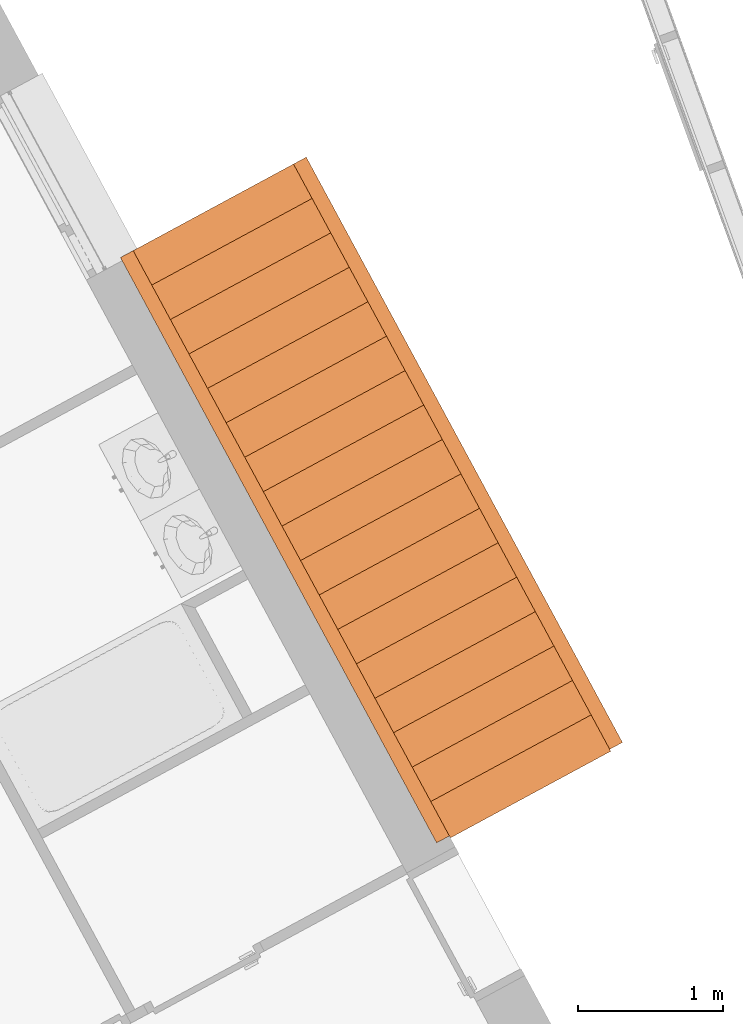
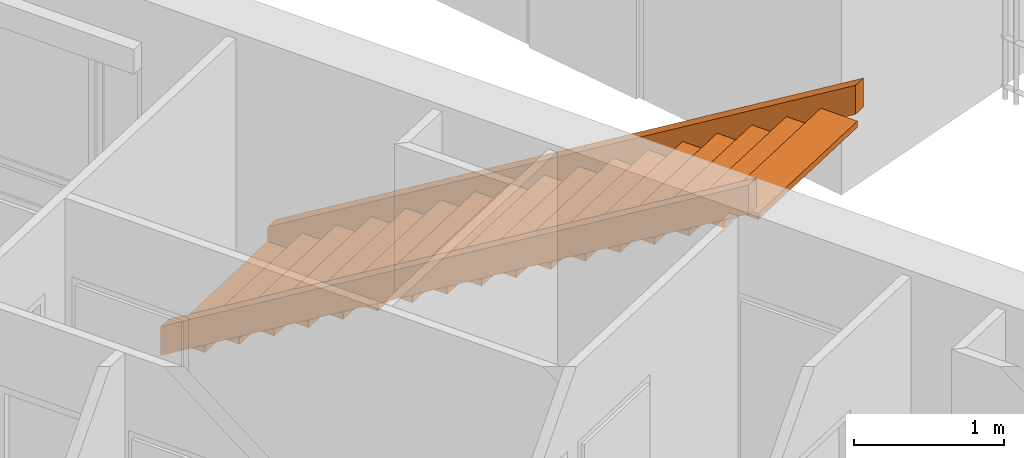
# One storey, part 190 of 195: 19 proxies, 1 element without a shape of its own.
"""IFC2X3 building model written with IfcOpenShell, lengths in metres."""

from ifc_helpers import new_model, entity, si_unit, converted_unit, derived_unit, money_unit, direction, frame, origin_with_axes, place, context, subcontext, project, spatial, faceted_brep, material, type_object, element, aggregate, save


model = new_model("IFC2X3")

# Units and contexts
model_context = context("Model", 3, precision=1e-05, world=origin_with_axes(), true_north=direction((0.0, 1.0)))
body_context = subcontext(model_context, "Body", "Model", "MODEL_VIEW")
ifc_project = project(units=[si_unit("LENGTHUNIT", "METRE"), si_unit("AREAUNIT", "SQUARE_METRE"), si_unit("VOLUMEUNIT", "CUBIC_METRE"), converted_unit("PLANEANGLEUNIT", "DEGREE", entity("IfcPlaneAngleMeasure", 0.0174532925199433), si_unit("PLANEANGLEUNIT", "RADIAN"), dimensions=[0, 0, 0, 0, 0, 0, 0]), money_unit("CHF"), converted_unit("TIMEUNIT", "Year", entity("IfcTimeMeasure", 31557600.0), si_unit("TIMEUNIT", "SECOND"), dimensions=[0, 0, 1, 0, 0, 0, 0]), si_unit("MASSUNIT", "GRAM", prefix="KILO"), si_unit("THERMODYNAMICTEMPERATUREUNIT", "DEGREE_CELSIUS"), si_unit("LUMINOUSINTENSITYUNIT", "LUMEN"), si_unit("ENERGYUNIT", "JOULE", prefix="MEGA"), derived_unit("THERMALCONDUCTANCEUNIT", [(si_unit("POWERUNIT", "WATT"), 1), (si_unit("LENGTHUNIT", "METRE"), -1), (si_unit("THERMODYNAMICTEMPERATUREUNIT", "KELVIN"), -1)]), derived_unit("SPECIFICHEATCAPACITYUNIT", [(si_unit("ENERGYUNIT", "JOULE"), 1), (si_unit("MASSUNIT", "GRAM", prefix="KILO"), -1), (si_unit("THERMODYNAMICTEMPERATUREUNIT", "KELVIN"), -1)]), derived_unit("MASSDENSITYUNIT", [(si_unit("MASSUNIT", "GRAM", prefix="KILO"), 1), (si_unit("VOLUMEUNIT", "CUBIC_METRE"), -1)])], contexts=[model_context])

# Site, building, storey
site_placement = place(None, origin_with_axes())
site = spatial("IfcSite", under=ifc_project, at=site_placement, Name="Site", CompositionType="ELEMENT")
building_placement = place(site_placement, origin_with_axes())
building = spatial("IfcBuilding", under=site, at=building_placement, Name="Bâtiment", CompositionType="ELEMENT")
storey_placement = place(building_placement, origin_with_axes())
storey = spatial("IfcBuildingStorey", under=building, at=storey_placement, Name="rdc", CompositionType="ELEMENT", Elevation=0.0)

# Stair, proxies
stair_placement = place(storey_placement, frame((9563.621059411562, -1025.685875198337, 57.33248236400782), z_axis=(0.0, 0.0, 1.0), x_axis=(-0.2274627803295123, 0.9737867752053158, 0.0)))
stair = element("IfcStair", 1, at=stair_placement, inside=storey, Name="ESC-028", ShapeType="NOTDEFINED")
ifc_material_1 = material(Name="Isolant styromousse 288701002")
building_element_proxy_type = type_object("IfcBuildingElementProxyType", Name="IfcBuildingElementProxy", PredefinedType="NOTDEFINED")
proxy_1_placement = place(stair_placement, origin_with_axes())
proxy_1 = element("IfcBuildingElementProxy", 2, at=proxy_1_placement, type_object=building_element_proxy_type, material=ifc_material_1, Name="SS - 039", context=body_context, shape_type="Brep", body=[
    faceted_brep([(-4.428745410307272, -1.205949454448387, 2.882482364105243), (-4.428745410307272, -1.205949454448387, 3.117517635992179), (0.0, 0.0, 0.2841843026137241), (0.0, 0.0, 0.04914903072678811), (-4.402472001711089, -1.302436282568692, 3.117517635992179), (-4.402472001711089, -1.302436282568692, 2.882482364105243), (0.02627340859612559, -0.09648682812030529, 0.2841843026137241), (0.02627340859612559, -0.09648682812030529, 0.04914903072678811)], [[[0, 1, 2, 3]], [[4, 1, 0, 5]], [[1, 4, 6, 2]], [[2, 6, 7, 3]], [[5, 0, 3, 7]], [[4, 5, 7, 6]]]),
])
proxy_2_placement = place(stair_placement, origin_with_axes())
proxy_2 = element("IfcBuildingElementProxy", 3, at=proxy_2_placement, type_object=building_element_proxy_type, material=ifc_material_1, Name="SS - 039", context=body_context, shape_type="Brep", body=[
    faceted_brep([(-4.785391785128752, 0.103803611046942, 2.882482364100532), (-4.785391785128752, 0.103803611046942, 3.117517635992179), (-0.3566463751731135, 1.30975306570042, 0.2841843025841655), (-0.3566463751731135, 1.30975306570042, 0.04914903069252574), (-4.759118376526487, 0.007316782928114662, 3.117517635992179), (-4.759118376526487, 0.007316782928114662, 2.882482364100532), (-0.3303729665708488, 1.213266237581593, 0.2841843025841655), (-0.3303729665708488, 1.213266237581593, 0.04914903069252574)], [[[0, 1, 2, 3]], [[4, 1, 0, 5]], [[1, 4, 6, 2]], [[2, 6, 7, 3]], [[5, 0, 3, 7]], [[4, 5, 7, 6]]]),
])
ifc_material_2 = material(Name="Lame d'air 275581351")
proxy_3_placement = place(stair_placement, frame((-0.1274260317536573, 0.4679611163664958, 0.1666666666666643), z_axis=(0.0, 0.0, 1.0), x_axis=(-0.2627340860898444, 0.9648682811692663, 0.0)))
proxy_3 = element("IfcBuildingElementProxy", 4, at=proxy_3_placement, type_object=building_element_proxy_type, material=ifc_material_2, Name="MARCHE-537", context=body_context, shape_type="Brep", body=[
    faceted_brep([(-0.4849999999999, 0.0, -0.04999999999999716), (0.7724423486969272, 2.852402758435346e-10, -0.04999999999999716), (0.7724423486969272, 2.852402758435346e-10, 0.0), (-0.4849999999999, 0.0, 0.0), (-0.4849999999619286, 0.2849999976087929, -0.04999999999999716), (0.7724423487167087, 0.2849999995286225, -0.04999999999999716), (0.7724423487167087, 0.2849999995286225, 0.0), (-0.4849999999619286, 0.2849999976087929, 0.0)], [[[0, 1, 2, 3]], [[0, 4, 5, 1]], [[1, 5, 6, 2]], [[3, 2, 6, 7]], [[4, 0, 3, 7]], [[5, 4, 7, 6]]]),
])
proxy_4_placement = place(stair_placement, frame((-0.3879404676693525, 0.3970229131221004, 0.3333333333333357), z_axis=(0.0, 0.0, 1.0), x_axis=(-0.2627340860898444, 0.9648682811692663, 0.0)))
proxy_4 = element("IfcBuildingElementProxy", 5, at=proxy_4_placement, type_object=building_element_proxy_type, material=ifc_material_2, Name="MARCHE-538", context=body_context, shape_type="Brep", body=[
    faceted_brep([(-0.4850000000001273, 0.0, -0.04999999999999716), (0.7724423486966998, 2.853539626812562e-10, -0.04999999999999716), (0.7724423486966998, 2.853539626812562e-10, 0.0), (-0.4850000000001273, 0.0, 0.0), (-0.4849999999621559, 0.2849999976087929, -0.04999999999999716), (0.772442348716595, 0.2849999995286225, -0.04999999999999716), (0.772442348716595, 0.2849999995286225, 0.0), (-0.4849999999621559, 0.2849999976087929, 0.0)], [[[0, 1, 2, 3]], [[0, 4, 5, 1]], [[1, 5, 6, 2]], [[3, 2, 6, 7]], [[4, 0, 3, 7]], [[5, 4, 7, 6]]]),
])
proxy_5_placement = place(stair_placement, frame((-0.6484549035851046, 0.3260847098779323, 0.5), z_axis=(0.0, 0.0, 1.0), x_axis=(-0.2627340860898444, 0.9648682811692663, 0.0)))
proxy_5 = element("IfcBuildingElementProxy", 6, at=proxy_5_placement, type_object=building_element_proxy_type, material=ifc_material_2, Name="MARCHE-539", context=body_context, shape_type="Brep", body=[
    faceted_brep([(-0.4850000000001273, 0.0, -0.04999999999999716), (0.7724423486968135, 2.853539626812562e-10, -0.04999999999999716), (0.7724423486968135, 2.853539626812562e-10, 0.0), (-0.4850000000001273, 0.0, 0.0), (-0.4849999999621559, 0.2849999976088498, -0.04999999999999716), (0.772442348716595, 0.2849999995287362, -0.04999999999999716), (0.772442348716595, 0.2849999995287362, 0.0), (-0.4849999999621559, 0.2849999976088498, 0.0)], [[[0, 1, 2, 3]], [[0, 4, 5, 1]], [[1, 5, 6, 2]], [[3, 2, 6, 7]], [[4, 0, 3, 7]], [[5, 4, 7, 6]]]),
])
proxy_6_placement = place(stair_placement, frame((-1.169483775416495, 0.1842083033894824, 0.8333333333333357), z_axis=(0.0, 0.0, 1.0), x_axis=(-0.2627340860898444, 0.9648682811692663, 0.0)))
proxy_6 = element("IfcBuildingElementProxy", 7, at=proxy_6_placement, type_object=building_element_proxy_type, material=ifc_material_2, Name="MARCHE-541", context=body_context, shape_type="Brep", body=[
    faceted_brep([(-0.4850000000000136, 0.0, -0.04999999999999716), (0.7724423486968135, 2.853539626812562e-10, -0.04999999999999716), (0.7724423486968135, 2.853539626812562e-10, 0.0), (-0.4850000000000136, 0.0, 0.0), (-0.4849999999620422, 0.2849999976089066, -0.04999999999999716), (0.7724423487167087, 0.2849999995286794, -0.04999999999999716), (0.7724423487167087, 0.2849999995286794, 0.0), (-0.4849999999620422, 0.2849999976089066, 0.0)], [[[0, 1, 2, 3]], [[0, 4, 5, 1]], [[1, 5, 6, 2]], [[3, 2, 6, 7]], [[4, 0, 3, 7]], [[5, 4, 7, 6]]]),
])
proxy_7_placement = place(stair_placement, frame((-1.42999821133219, 0.1132701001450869, 1.0), z_axis=(0.0, 0.0, 1.0), x_axis=(-0.2627340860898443, 0.9648682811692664, 0.0)))
proxy_7 = element("IfcBuildingElementProxy", 8, at=proxy_7_placement, type_object=building_element_proxy_type, material=ifc_material_2, Name="MARCHE-542", context=body_context, shape_type="Brep", body=[
    faceted_brep([(-0.4850000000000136, 0.0, -0.04999999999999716), (0.7724423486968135, 2.853539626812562e-10, -0.04999999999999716), (0.7724423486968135, 2.853539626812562e-10, 0.0), (-0.4850000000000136, 0.0, 0.0), (-0.4849999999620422, 0.2849999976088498, -0.04999999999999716), (0.7724423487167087, 0.2849999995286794, -0.04999999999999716), (0.7724423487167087, 0.2849999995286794, 0.0), (-0.4849999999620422, 0.2849999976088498, 0.0)], [[[0, 1, 2, 3]], [[0, 4, 5, 1]], [[1, 5, 6, 2]], [[3, 2, 6, 7]], [[4, 0, 3, 7]], [[5, 4, 7, 6]]]),
])
proxy_8_placement = place(stair_placement, frame((-1.690512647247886, 0.04233189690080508, 1.166666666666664), z_axis=(0.0, 0.0, 1.0), x_axis=(-0.2627340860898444, 0.9648682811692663, 0.0)))
proxy_8 = element("IfcBuildingElementProxy", 9, at=proxy_8_placement, type_object=building_element_proxy_type, material=ifc_material_2, Name="MARCHE-543", context=body_context, shape_type="Brep", body=[
    faceted_brep([(-0.4850000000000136, 0.0, -0.04999999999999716), (0.7724423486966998, 2.853539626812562e-10, -0.04999999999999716), (0.7724423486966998, 2.853539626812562e-10, 0.0), (-0.4850000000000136, 0.0, 0.0), (-0.4849999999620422, 0.2849999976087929, -0.04999999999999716), (0.772442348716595, 0.2849999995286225, -0.04999999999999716), (0.772442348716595, 0.2849999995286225, 0.0), (-0.4849999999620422, 0.2849999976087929, 0.0)], [[[0, 1, 2, 3]], [[0, 4, 5, 1]], [[1, 5, 6, 2]], [[3, 2, 6, 7]], [[4, 0, 3, 7]], [[5, 4, 7, 6]]]),
])
proxy_9_placement = place(stair_placement, frame((-0.908969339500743, 0.2551465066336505, 0.6666666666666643), z_axis=(0.0, 0.0, 1.0), x_axis=(-0.2627340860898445, 0.9648682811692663, 0.0)))
proxy_9 = element("IfcBuildingElementProxy", 10, at=proxy_9_placement, type_object=building_element_proxy_type, material=ifc_material_2, Name="MARCHE-540", context=body_context, shape_type="Brep", body=[
    faceted_brep([(-0.4850000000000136, 0.0, -0.04999999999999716), (0.7724423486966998, 2.852971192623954e-10, -0.04999999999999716), (0.7724423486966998, 2.852971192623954e-10, 0.0), (-0.4850000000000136, 0.0, 0.0), (-0.4849999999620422, 0.2849999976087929, -0.04999999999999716), (0.7724423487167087, 0.2849999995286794, -0.04999999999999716), (0.7724423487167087, 0.2849999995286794, 0.0), (-0.4849999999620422, 0.2849999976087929, 0.0)], [[[0, 1, 2, 3]], [[0, 4, 5, 1]], [[1, 5, 6, 2]], [[3, 2, 6, 7]], [[4, 0, 3, 7]], [[5, 4, 7, 6]]]),
])
proxy_10_placement = place(stair_placement, frame((-1.951027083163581, -0.02860630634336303, 1.333333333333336), z_axis=(0.0, 0.0, 1.0), x_axis=(-0.2627340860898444, 0.9648682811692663, 0.0)))
proxy_10 = element("IfcBuildingElementProxy", 11, at=proxy_10_placement, type_object=building_element_proxy_type, material=ifc_material_2, Name="MARCHE-544", context=body_context, shape_type="Brep", body=[
    faceted_brep([(-0.4849999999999, 0.0, -0.04999999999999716), (0.7724423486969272, 2.853539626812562e-10, -0.04999999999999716), (0.7724423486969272, 2.853539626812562e-10, 0.0), (-0.4849999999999, 0.0, 0.0), (-0.4849999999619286, 0.2849999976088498, -0.04999999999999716), (0.7724423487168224, 0.2849999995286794, -0.04999999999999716), (0.7724423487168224, 0.2849999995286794, 0.0), (-0.4849999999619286, 0.2849999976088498, 0.0)], [[[0, 1, 2, 3]], [[0, 4, 5, 1]], [[1, 5, 6, 2]], [[3, 2, 6, 7]], [[4, 0, 3, 7]], [[5, 4, 7, 6]]]),
])
proxy_11_placement = place(stair_placement, frame((-2.211541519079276, -0.09954450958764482, 1.5), z_axis=(0.0, 0.0, 1.0), x_axis=(-0.2627340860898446, 0.9648682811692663, 0.0)))
proxy_11 = element("IfcBuildingElementProxy", 12, at=proxy_11_placement, type_object=building_element_proxy_type, material=ifc_material_2, Name="MARCHE-545", context=body_context, shape_type="Brep", body=[
    faceted_brep([(-0.4850000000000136, 0.0, -0.04999999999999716), (0.7724423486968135, 2.853539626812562e-10, -0.04999999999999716), (0.7724423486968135, 2.853539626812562e-10, 0.0), (-0.4850000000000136, 0.0, 0.0), (-0.4849999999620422, 0.2849999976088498, -0.04999999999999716), (0.7724423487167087, 0.2849999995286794, -0.04999999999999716), (0.7724423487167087, 0.2849999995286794, 0.0), (-0.4849999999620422, 0.2849999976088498, 0.0)], [[[0, 1, 2, 3]], [[0, 4, 5, 1]], [[1, 5, 6, 2]], [[3, 2, 6, 7]], [[4, 0, 3, 7]], [[5, 4, 7, 6]]]),
])
proxy_12_placement = place(stair_placement, frame((-2.472055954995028, -0.1704827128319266, 1.666666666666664), z_axis=(0.0, 0.0, 1.0), x_axis=(-0.2627340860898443, 0.9648682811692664, 0.0)))
proxy_12 = element("IfcBuildingElementProxy", 13, at=proxy_12_placement, type_object=building_element_proxy_type, material=ifc_material_2, Name="MARCHE-546", context=body_context, shape_type="Brep", body=[
    faceted_brep([(-0.4850000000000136, 0.0, -0.04999999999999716), (0.7724423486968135, 2.853539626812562e-10, -0.04999999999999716), (0.7724423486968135, 2.853539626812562e-10, 0.0), (-0.4850000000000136, 0.0, 0.0), (-0.4849999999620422, 0.2849999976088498, -0.04999999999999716), (0.772442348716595, 0.2849999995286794, -0.04999999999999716), (0.772442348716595, 0.2849999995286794, 0.0), (-0.4849999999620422, 0.2849999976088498, 0.0)], [[[0, 1, 2, 3]], [[0, 4, 5, 1]], [[1, 5, 6, 2]], [[3, 2, 6, 7]], [[4, 0, 3, 7]], [[5, 4, 7, 6]]]),
])
proxy_13_placement = place(stair_placement, frame((-2.732570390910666, -0.2414209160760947, 1.833333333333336), z_axis=(0.0, 0.0, 1.0), x_axis=(-0.2627340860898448, 0.9648682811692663, 0.0)))
proxy_13 = element("IfcBuildingElementProxy", 14, at=proxy_13_placement, type_object=building_element_proxy_type, material=ifc_material_2, Name="MARCHE-547", context=body_context, shape_type="Brep", body=[
    faceted_brep([(-0.4850000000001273, 0.0, -0.04999999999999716), (0.7724423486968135, 2.853539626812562e-10, -0.04999999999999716), (0.7724423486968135, 2.853539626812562e-10, 0.0), (-0.4850000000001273, 0.0, 0.0), (-0.4849999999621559, 0.2849999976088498, -0.04999999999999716), (0.772442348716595, 0.2849999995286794, -0.04999999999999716), (0.772442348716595, 0.2849999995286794, 0.0), (-0.4849999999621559, 0.2849999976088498, 0.0)], [[[0, 1, 2, 3]], [[0, 4, 5, 1]], [[1, 5, 6, 2]], [[3, 2, 6, 7]], [[4, 0, 3, 7]], [[5, 4, 7, 6]]]),
])
proxy_14_placement = place(stair_placement, frame((-2.993084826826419, -0.3123591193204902, 2.0), z_axis=(0.0, 0.0, 1.0), x_axis=(-0.2627340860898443, 0.9648682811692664, 0.0)))
proxy_14 = element("IfcBuildingElementProxy", 15, at=proxy_14_placement, type_object=building_element_proxy_type, material=ifc_material_2, Name="MARCHE-548", context=body_context, shape_type="Brep", body=[
    faceted_brep([(-0.4850000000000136, 0.0, -0.04999999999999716), (0.7724423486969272, 2.852971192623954e-10, -0.04999999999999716), (0.7724423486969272, 2.852971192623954e-10, 0.0), (-0.4850000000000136, 0.0, 0.0), (-0.4849999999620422, 0.2849999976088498, -0.04999999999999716), (0.7724423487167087, 0.2849999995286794, -0.04999999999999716), (0.7724423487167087, 0.2849999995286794, 0.0), (-0.4849999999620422, 0.2849999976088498, 0.0)], [[[0, 1, 2, 3]], [[0, 4, 5, 1]], [[1, 5, 6, 2]], [[3, 2, 6, 7]], [[4, 0, 3, 7]], [[5, 4, 7, 6]]]),
])
proxy_15_placement = place(stair_placement, frame((-3.253599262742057, -0.3832973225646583, 2.166666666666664), z_axis=(0.0, 0.0, 1.0), x_axis=(-0.2627340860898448, 0.9648682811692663, 0.0)))
proxy_15 = element("IfcBuildingElementProxy", 16, at=proxy_15_placement, type_object=building_element_proxy_type, material=ifc_material_2, Name="MARCHE-549", context=body_context, shape_type="Brep", body=[
    faceted_brep([(-0.4850000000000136, 0.0, -0.04999999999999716), (0.7724423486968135, 2.853539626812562e-10, -0.04999999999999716), (0.7724423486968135, 2.853539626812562e-10, 0.0), (-0.4850000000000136, 0.0, 0.0), (-0.4849999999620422, 0.2849999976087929, -0.04999999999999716), (0.7724423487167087, 0.2849999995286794, -0.04999999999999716), (0.7724423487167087, 0.2849999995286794, 0.0), (-0.4849999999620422, 0.2849999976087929, 0.0)], [[[0, 1, 2, 3]], [[0, 4, 5, 1]], [[1, 5, 6, 2]], [[3, 2, 6, 7]], [[4, 0, 3, 7]], [[5, 4, 7, 6]]]),
])
proxy_16_placement = place(stair_placement, frame((-3.514113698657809, -0.4542355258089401, 2.333333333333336), z_axis=(0.0, 0.0, 1.0), x_axis=(-0.2627340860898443, 0.9648682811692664, 0.0)))
proxy_16 = element("IfcBuildingElementProxy", 17, at=proxy_16_placement, type_object=building_element_proxy_type, material=ifc_material_2, Name="MARCHE-550", context=body_context, shape_type="Brep", body=[
    faceted_brep([(-0.4850000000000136, 0.0, -0.04999999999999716), (0.7724423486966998, 2.852971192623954e-10, -0.04999999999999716), (0.7724423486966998, 2.852971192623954e-10, 0.0), (-0.4850000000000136, 0.0, 0.0), (-0.4849999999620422, 0.2849999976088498, -0.04999999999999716), (0.7724423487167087, 0.2849999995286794, -0.04999999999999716), (0.7724423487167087, 0.2849999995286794, 0.0), (-0.4849999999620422, 0.2849999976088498, 0.0)], [[[0, 1, 2, 3]], [[0, 4, 5, 1]], [[1, 5, 6, 2]], [[3, 2, 6, 7]], [[4, 0, 3, 7]], [[5, 4, 7, 6]]]),
])
proxy_17_placement = place(stair_placement, frame((-3.774628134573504, -0.5251737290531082, 2.5), z_axis=(0.0, 0.0, 1.0), x_axis=(-0.2627340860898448, 0.9648682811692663, 0.0)))
proxy_17 = element("IfcBuildingElementProxy", 18, at=proxy_17_placement, type_object=building_element_proxy_type, material=ifc_material_2, Name="MARCHE-551", context=body_context, shape_type="Brep", body=[
    faceted_brep([(-0.4850000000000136, 0.0, -0.04999999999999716), (0.7724423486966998, 2.852402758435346e-10, -0.04999999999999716), (0.7724423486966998, 2.852402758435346e-10, 0.0), (-0.4850000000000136, 0.0, 0.0), (-0.4849999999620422, 0.2849999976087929, -0.04999999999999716), (0.772442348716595, 0.2849999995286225, -0.04999999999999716), (0.772442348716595, 0.2849999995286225, 0.0), (-0.4849999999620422, 0.2849999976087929, 0.0)], [[[0, 1, 2, 3]], [[0, 4, 5, 1]], [[1, 5, 6, 2]], [[3, 2, 6, 7]], [[4, 0, 3, 7]], [[5, 4, 7, 6]]]),
])
proxy_18_placement = place(stair_placement, frame((-4.035142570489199, -0.59611193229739, 2.666666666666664), z_axis=(0.0, 0.0, 1.0), x_axis=(-0.2627340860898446, 0.9648682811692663, 0.0)))
proxy_18 = element("IfcBuildingElementProxy", 19, at=proxy_18_placement, type_object=building_element_proxy_type, material=ifc_material_2, Name="MARCHE-552", context=body_context, shape_type="Brep", body=[
    faceted_brep([(-0.4850000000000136, 0.0, -0.04999999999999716), (0.7724423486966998, 2.852971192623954e-10, -0.04999999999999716), (0.7724423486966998, 2.852971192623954e-10, 0.0), (-0.4850000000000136, 0.0, 0.0), (-0.4849999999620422, 0.2849999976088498, -0.04999999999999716), (0.7724423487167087, 0.2849999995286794, -0.04999999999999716), (0.7724423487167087, 0.2849999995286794, 0.0), (-0.4849999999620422, 0.2849999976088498, 0.0)], [[[0, 1, 2, 3]], [[0, 4, 5, 1]], [[1, 5, 6, 2]], [[3, 2, 6, 7]], [[4, 0, 3, 7]], [[5, 4, 7, 6]]]),
])
proxy_19_placement = place(stair_placement, frame((-4.295657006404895, -0.6670501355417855, 2.833333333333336), z_axis=(0.0, 0.0, 1.0), x_axis=(-0.2627340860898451, 0.9648682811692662, 0.0)))
proxy_19 = element("IfcBuildingElementProxy", 20, at=proxy_19_placement, type_object=building_element_proxy_type, material=ifc_material_2, Name="MARCHE-553", context=body_context, shape_type="Brep", body=[
    faceted_brep([(-0.4849999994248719, 0.0, -0.04999999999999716), (0.7724423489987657, 0.0, -0.04999999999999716), (0.7724423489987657, 0.0, 0.0), (-0.4849999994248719, 0.0, 0.0), (-0.4849999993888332, 0.2699999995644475, -0.04999999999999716), (-0.4849999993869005, 0.2849999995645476, -0.04999999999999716), (0.7724423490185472, 0.2849999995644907, -0.04999999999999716), (0.7724423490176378, 0.2699999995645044, -0.04999999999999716), (0.7724423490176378, 0.2699999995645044, 0.0), (0.7724423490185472, 0.2849999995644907, 0.0), (-0.4849999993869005, 0.2849999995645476, 0.0), (-0.4849999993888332, 0.2699999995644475, 0.0)], [[[0, 1, 2, 3]], [[0, 4, 5, 6, 7, 1]], [[1, 7, 8, 2]], [[3, 2, 8, 9, 10, 11]], [[4, 0, 3, 11]], [[5, 4, 11, 10]], [[6, 5, 10, 9]], [[7, 6, 9, 8]]]),
])
aggregate(stair, [proxy_1, proxy_2, proxy_3, proxy_4, proxy_5, proxy_6, proxy_7, proxy_8, proxy_9, proxy_10, proxy_11, proxy_12, proxy_13, proxy_14, proxy_15, proxy_16, proxy_17, proxy_18, proxy_19])

save(model, "model.ifc")
